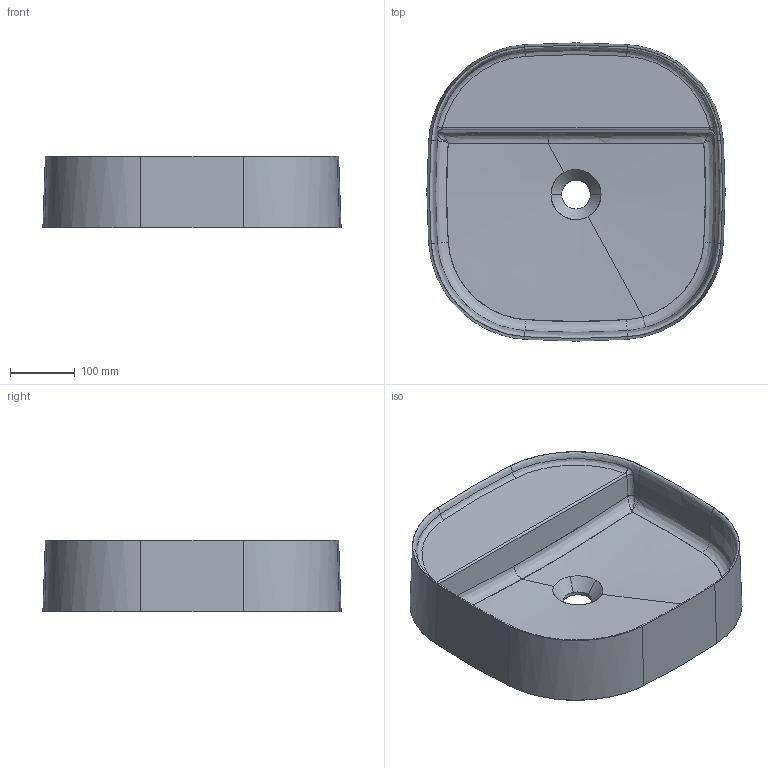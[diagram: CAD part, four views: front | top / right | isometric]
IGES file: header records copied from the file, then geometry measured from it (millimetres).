
Start section: START RECORD GO HERE.
Global section: file name: 7403_45x45.igs; native system: DASSAULT SYSTEMES CATIA V5 R19 - www.3ds.com; preprocessor: CATIA Version 5 Release 19 SP 5 ; author: gioge; organization: LAPTOP-G94B6G74; date: 20200630.143328; units: millimetre
Bounding box: 459.68 x 459.68 x 110 mm (x, y, z)
Surface area: 693273.9 mm2 (no closed solid volume)
Topology: 0 solids, 0 shells, 131 faces, 606 edges, 605 vertices
Faces by surface type: bspline 109, revolution 16, plane 6
